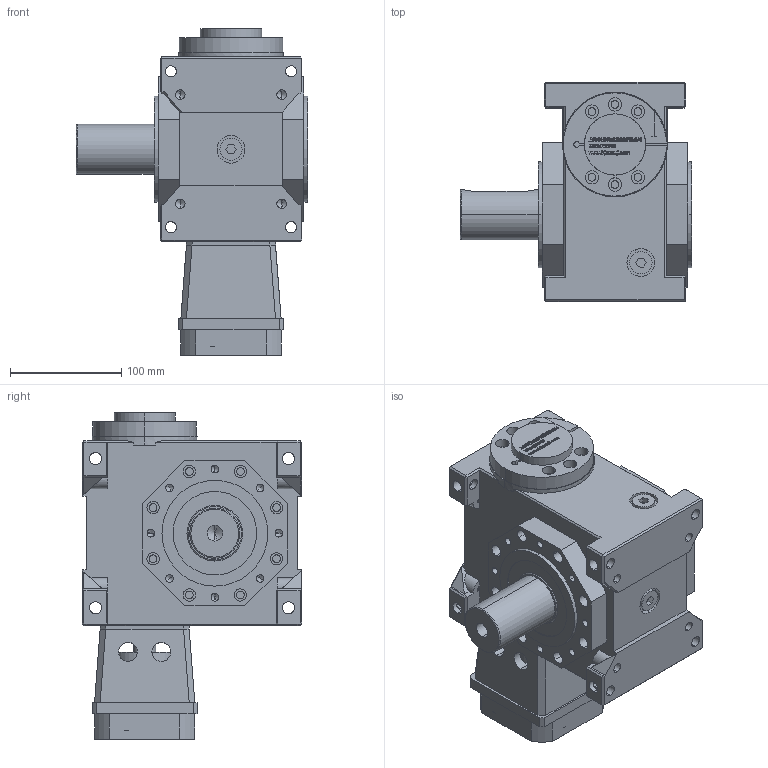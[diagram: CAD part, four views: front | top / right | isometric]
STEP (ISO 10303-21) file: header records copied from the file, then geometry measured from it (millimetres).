
FILE_DESCRIPTION (( 'STEP AP203' ), '1' );
FILE_NAME ('FXLB063-(5~90)-ASL-19-70-90-M6.STEP', '2022-11-05T03:03:26', ( '' ), ( '' ), 'SwSTEP 2.0', 'SolidWorks 2020', '' );
FILE_SCHEMA (( 'CONFIG_CONTROL_DESIGN' ));
Length unit declared in the file: millimetre
Products named in the file (1): FXLB063-(5~90)-ASL-19-70-90-M6
Bounding box: 208 x 197 x 293.2 mm (x, y, z)
Volume: 4305874.7 mm3; surface area: 419676.9 mm2
Topology: 16 solids, 16 shells, 1990 faces, 5150 edges, 3335 vertices
Faces by surface type: plane 1079, cylinder 433, bspline 370, cone 86, torus 22
Entity records: 78411 total; most frequent: CARTESIAN_POINT 31794, ORIENTED_EDGE 10160, DIRECTION 8422, EDGE_CURVE 5080, VERTEX_POINT 3335, VECTOR 3300, LINE 3300, AXIS2_PLACEMENT_3D 2561
